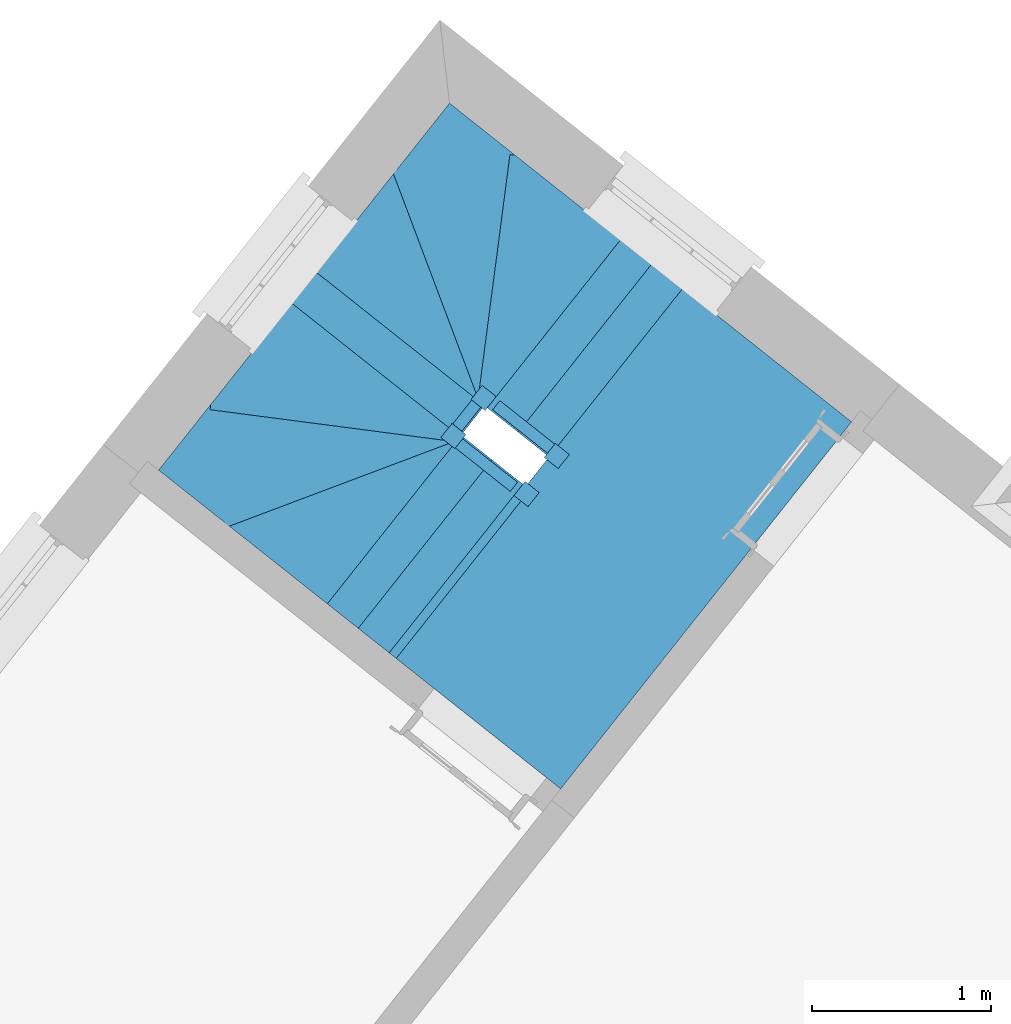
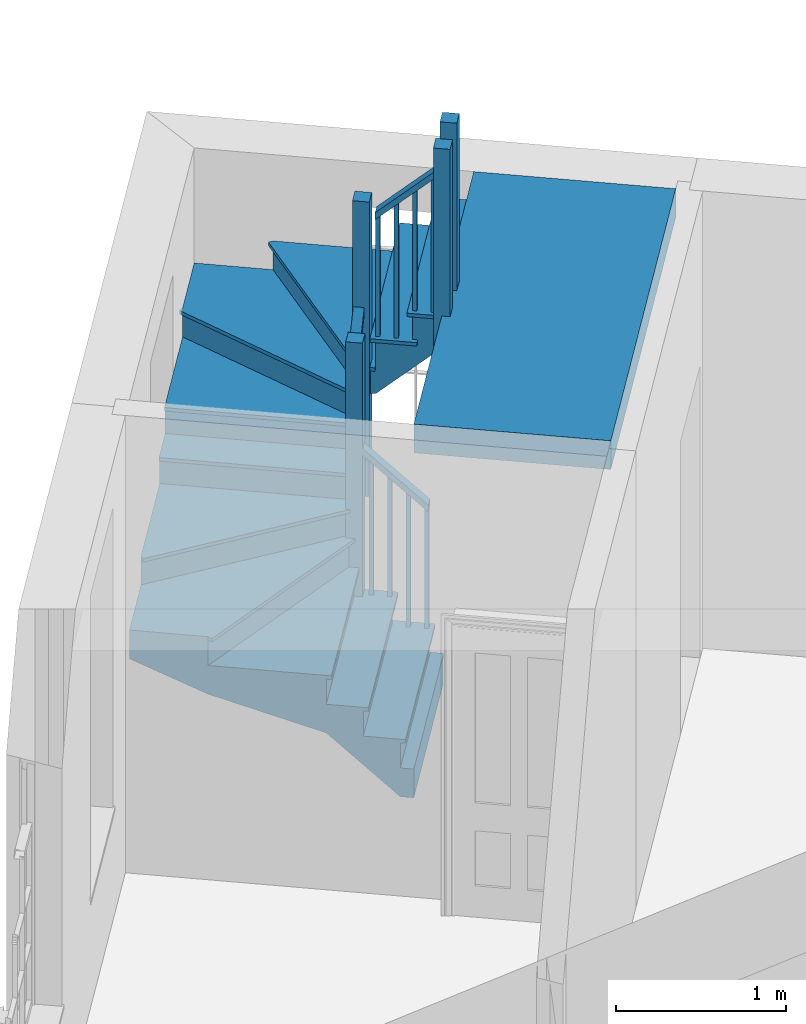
# One storey, part 6 of 6: 1 stair.
"""IFC4 building model written with IfcOpenShell, lengths in metres."""

from ifc_helpers import new_model, si_unit, frame, origin, origin_with_axes, place, context, subcontext, project, spatial, faceted_brep, element, save


model = new_model("IFC4")

# Units and contexts
model_context = context("Model", 3, world=origin_with_axes())
body_context = subcontext(model_context, "Body", "Model", "MODEL_VIEW")
ifc_project = project(units=[si_unit("PLANEANGLEUNIT", "RADIAN"), si_unit("MASSUNIT", "GRAM", prefix="KILO"), si_unit("FORCEUNIT", "NEWTON", prefix="KILO"), si_unit("LENGTHUNIT", "METRE"), si_unit("AREAUNIT", "SQUARE_METRE"), si_unit("VOLUMEUNIT", "CUBIC_METRE")], contexts=[model_context, model_context])

# Sites, building, storey
site_1_placement = place(None, origin_with_axes())
site_1 = spatial("IfcSite", under=ifc_project, at=site_1_placement, Name="Tamar")
site_2_placement = place(site_1_placement, origin_with_axes())
site_2 = spatial("IfcSite", under=site_1, at=site_2_placement, Name="Site plot-5", CompositionType="ELEMENT")
building_placement = place(None, origin_with_axes())
building = spatial("IfcBuilding", under=site_2, at=building_placement, Name="Building plot-5", CompositionType="ELEMENT")
storey_placement = place(None, frame((0.0, 0.0, 26.85), z_axis=(0.0, 0.0, 1.0), x_axis=(1.0, 0.0, 0.0)))
storey = spatial("IfcBuildingStorey", under=building, at=storey_placement, Name="plot-5 1", CompositionType="ELEMENT", Elevation=26.85)

# Stair
stair_placement = place(None, origin())
element("IfcStair", 1, at=stair_placement, inside=storey, Name="Stair", PredefinedType="NOTDEFINED", context=body_context, shape_type="Brep", body=[
    faceted_brep([(230.127307, 275.473376, 29.94375), (230.854102, 276.390256, 29.94375), (230.681697, 276.526919, 29.94375), (229.954902, 275.610039, 29.94375), (229.954902, 275.610039, 29.53125), (230.681697, 276.526919, 29.53125), (230.854102, 276.390256, 29.7375), (230.127307, 275.473376, 29.7375)], [[[0, 1, 2, 3]], [[4, 5, 6, 7]], [[7, 6, 1, 0]], [[1, 6, 5, 2]], [[5, 4, 3, 2]], [[3, 4, 7, 0]]]),
    faceted_brep([(230.658187, 276.545555, 29.91875), (230.658187, 276.545555, 29.94375), (230.681697, 276.526919, 29.91875), (230.877612, 276.371621, 29.94375), (230.877612, 276.371621, 29.91875), (230.854102, 276.390256, 29.91875), (230.681697, 276.526919, 29.94375), (230.854102, 276.390256, 29.94375), (229.912757, 275.605165, 29.94375), (229.954902, 275.610039, 29.94375), (229.954902, 275.610039, 29.91875), (229.912757, 275.605165, 29.91875), (230.132181, 275.431231, 29.94375), (230.127307, 275.473376, 29.94375), (230.127307, 275.473376, 29.91875), (230.132181, 275.431231, 29.91875)], [[[0, 1, 2]], [[3, 4, 5]], [[2, 1, 6]], [[3, 5, 7]], [[6, 1, 8, 9]], [[2, 6, 9, 10]], [[0, 2, 10, 11]], [[1, 0, 11, 8]], [[9, 8, 12, 13]], [[10, 9, 13, 14]], [[11, 10, 14, 15]], [[8, 11, 15, 12]], [[13, 12, 3, 7]], [[14, 13, 7, 5]], [[15, 14, 5, 4]], [[12, 15, 4, 3]]]),
    faceted_brep([(229.954902, 275.610039, 30.84375), (229.974494, 275.594509, 30.84375), (229.990023, 275.6141, 30.84375), (229.970432, 275.62963, 30.84375), (229.970432, 275.62963, 29.94375), (229.990023, 275.6141, 29.94375), (229.974494, 275.594509, 29.94375), (229.954902, 275.610039, 29.94375)], [[[0, 1, 2, 3]], [[4, 5, 6, 7]], [[7, 6, 1, 0]], [[6, 5, 2, 1]], [[5, 4, 3, 2]], [[4, 7, 0, 3]]]),
    faceted_brep([(230.041105, 275.541708, 30.946875), (230.060696, 275.526178, 30.946875), (230.076226, 275.545769, 30.946875), (230.056634, 275.561299, 30.946875), (230.056634, 275.561299, 29.94375), (230.076226, 275.545769, 29.94375), (230.060696, 275.526178, 29.94375), (230.041105, 275.541708, 29.94375)], [[[0, 1, 2, 3]], [[4, 5, 6, 7]], [[7, 6, 1, 0]], [[6, 5, 2, 1]], [[5, 4, 3, 2]], [[4, 7, 0, 3]]]),
    faceted_brep([(229.982856, 275.645303, 30.79375), (229.942478, 275.594366, 30.79375), (229.942478, 275.594366, 30.84375), (229.982856, 275.645303, 30.84375), (230.114883, 275.457703, 31.0), (230.155261, 275.508641, 31.0), (230.155261, 275.508641, 31.05), (230.114883, 275.457703, 31.05)], [[[0, 1, 2, 3]], [[4, 5, 6, 7]], [[0, 5, 4, 1]], [[3, 2, 7, 6]], [[0, 3, 6, 5]], [[2, 1, 4, 7]]]),
    faceted_brep([(229.954902, 275.610039, 29.7375), (230.681697, 276.526919, 29.7375), (230.509292, 276.663581, 29.7375), (229.782497, 275.746701, 29.7375), (229.782497, 275.746701, 29.325), (230.509292, 276.663581, 29.325), (230.681697, 276.526919, 29.53125), (229.954902, 275.610039, 29.53125)], [[[0, 1, 2, 3]], [[4, 5, 6, 7]], [[7, 6, 1, 0]], [[1, 6, 5, 2]], [[5, 4, 3, 2]], [[3, 4, 7, 0]]]),
    faceted_brep([(230.509292, 276.663581, 29.7125), (230.485783, 276.682217, 29.7125), (230.509292, 276.663581, 29.7375), (230.705207, 276.508283, 29.7125), (230.681697, 276.526919, 29.7125), (230.681697, 276.526919, 29.7375), (230.485783, 276.682217, 29.7375), (230.705207, 276.508283, 29.7375), (229.740352, 275.741827, 29.7375), (229.782497, 275.746701, 29.7375), (229.782497, 275.746701, 29.7125), (229.740352, 275.741827, 29.7125), (229.959776, 275.567893, 29.7375), (229.954902, 275.610039, 29.7375), (229.954902, 275.610039, 29.7125), (229.959776, 275.567893, 29.7125)], [[[0, 1, 2]], [[3, 4, 5]], [[1, 6, 2]], [[7, 3, 5]], [[2, 6, 8, 9]], [[0, 2, 9, 10]], [[1, 0, 10, 11]], [[6, 1, 11, 8]], [[9, 8, 12, 13]], [[10, 9, 13, 14]], [[11, 10, 14, 15]], [[8, 11, 15, 12]], [[13, 12, 7, 5]], [[14, 13, 5, 4]], [[15, 14, 4, 3]], [[12, 15, 3, 7]]]),
    faceted_brep([(229.782497, 275.746701, 30.6375), (229.802089, 275.731171, 30.6375), (229.817619, 275.750763, 30.6375), (229.798027, 275.766293, 30.6375), (229.798027, 275.766293, 29.7375), (229.817619, 275.750763, 29.7375), (229.802089, 275.731171, 29.7375), (229.782497, 275.746701, 29.7375)], [[[0, 1, 2, 3]], [[4, 5, 6, 7]], [[7, 6, 1, 0]], [[6, 5, 2, 1]], [[5, 4, 3, 2]], [[4, 7, 0, 3]]]),
    faceted_brep([(229.8687, 275.67837, 30.740625), (229.888291, 275.66284, 30.740625), (229.903821, 275.682432, 30.740625), (229.88423, 275.697961, 30.740625), (229.88423, 275.697961, 29.7375), (229.903821, 275.682432, 29.7375), (229.888291, 275.66284, 29.7375), (229.8687, 275.67837, 29.7375)], [[[0, 1, 2, 3]], [[4, 5, 6, 7]], [[7, 6, 1, 0]], [[6, 5, 2, 1]], [[5, 4, 3, 2]], [[4, 7, 0, 3]]]),
    faceted_brep([(229.810451, 275.781966, 30.5875), (229.770074, 275.731028, 30.5875), (229.770074, 275.731028, 30.6375), (229.810451, 275.781966, 30.6375), (229.942478, 275.594366, 30.79375), (229.982856, 275.645303, 30.79375), (229.982856, 275.645303, 30.84375), (229.942478, 275.594366, 30.84375)], [[[0, 1, 2, 3]], [[4, 5, 6, 7]], [[0, 5, 4, 1]], [[3, 2, 7, 6]], [[0, 3, 6, 5]], [[2, 1, 4, 7]]]),
    faceted_brep([(229.782497, 275.746701, 29.53125), (230.509292, 276.663581, 29.53125), (230.446352, 276.713473, 29.53125), (229.719557, 275.796593, 29.53125), (229.719557, 275.796593, 29.325), (230.446352, 276.713473, 29.325), (230.509292, 276.663581, 29.325), (229.782497, 275.746701, 29.325)], [[[0, 1, 2, 3]], [[4, 5, 6, 7]], [[7, 6, 1, 0]], [[6, 5, 2, 1]], [[5, 4, 3, 2]], [[4, 7, 0, 3]]]),
    faceted_brep([(229.700921, 275.773083, 29.50625), (229.700921, 275.773083, 29.53125), (229.719557, 275.796593, 29.50625), (229.763862, 275.723191, 29.53125), (229.763862, 275.723191, 29.50625), (229.782497, 275.746701, 29.50625), (229.719557, 275.796593, 29.53125), (229.782497, 275.746701, 29.53125)], [[[0, 1, 2]], [[3, 4, 5]], [[2, 1, 6]], [[3, 5, 7]], [[6, 1, 3, 7]], [[2, 6, 7, 5]], [[0, 2, 5, 4]], [[1, 0, 4, 3]]]),
    faceted_brep([(229.649314, 275.78847, 30.73125), (229.72768, 275.726351, 30.73125), (229.789799, 275.804716, 30.73125), (229.711433, 275.866836, 30.73125), (229.711433, 275.866836, 29.53125), (229.789799, 275.804716, 29.53125), (229.72768, 275.726351, 29.53125), (229.649314, 275.78847, 29.53125)], [[[0, 1, 2, 3]], [[4, 5, 6, 7]], [[7, 6, 1, 0]], [[6, 5, 2, 1]], [[5, 4, 3, 2]], [[4, 7, 0, 3]]]),
    faceted_brep([(230.446352, 276.713473, 29.53125), (229.896224, 277.14955, 29.53125), (229.719557, 275.796593, 29.53125), (229.719557, 275.796593, 29.11875), (229.896224, 277.14955, 29.11875), (230.446352, 276.713473, 29.325)], [[[0, 1, 2]], [[3, 4, 5]], [[0, 5, 4, 1]], [[4, 3, 2, 1]], [[2, 3, 5, 0]]]),
    faceted_brep([(229.866476, 277.153435, 29.50625), (229.866476, 277.153435, 29.53125), (229.896224, 277.14955, 29.50625), (229.689809, 275.800478, 29.53125), (229.689809, 275.800478, 29.50625), (229.719557, 275.796593, 29.50625), (229.896224, 277.14955, 29.53125), (229.719557, 275.796593, 29.53125)], [[[0, 1, 2]], [[3, 4, 5]], [[2, 1, 6]], [[3, 5, 7]], [[6, 1, 3, 7]], [[2, 6, 7, 5]], [[0, 2, 5, 4]], [[1, 0, 4, 3]]]),
    faceted_brep([(229.896224, 277.14955, 29.325), (229.529472, 277.440268, 29.325), (229.238754, 277.073516, 29.325), (229.719557, 275.796593, 29.325), (229.719557, 275.796593, 28.9125), (229.238754, 277.073516, 28.9125), (229.529472, 277.440268, 29.11875), (229.896224, 277.14955, 29.11875)], [[[0, 1, 2, 3]], [[4, 5, 6, 7]], [[7, 6, 1, 0]], [[1, 6, 5, 2]], [[5, 4, 3, 2]], [[3, 4, 7, 0]]]),
    faceted_brep([(229.210678, 277.062945, 29.3), (229.210678, 277.062945, 29.325), (229.238754, 277.073516, 29.3), (229.691481, 275.786022, 29.325), (229.691481, 275.786022, 29.3), (229.719557, 275.796593, 29.3), (229.238754, 277.073516, 29.325), (229.719557, 275.796593, 29.325)], [[[0, 1, 2]], [[3, 4, 5]], [[2, 1, 6]], [[3, 5, 7]], [[6, 1, 3, 7]], [[2, 6, 7, 5]], [[0, 2, 5, 4]], [[1, 0, 4, 3]]]),
    faceted_brep([(229.238754, 277.073516, 29.11875), (228.802677, 276.523388, 29.11875), (229.719557, 275.796593, 29.11875), (229.719557, 275.796593, 28.70625), (228.802677, 276.523388, 28.70625), (229.238754, 277.073516, 28.9125)], [[[0, 1, 2]], [[3, 4, 5]], [[0, 5, 4, 1]], [[4, 3, 2, 1]], [[2, 3, 5, 0]]]),
    faceted_brep([(228.784041, 276.499879, 29.09375), (228.784041, 276.499879, 29.11875), (228.802677, 276.523388, 29.09375), (229.700921, 275.773083, 29.11875), (229.700921, 275.773083, 29.09375), (229.719557, 275.796593, 29.09375), (228.802677, 276.523388, 29.11875), (229.719557, 275.796593, 29.11875)], [[[0, 1, 2]], [[3, 4, 5]], [[2, 1, 6]], [[3, 5, 7]], [[6, 1, 3, 7]], [[2, 6, 7, 5]], [[0, 2, 5, 4]], [[1, 0, 4, 3]]]),
    faceted_brep([(229.649314, 275.78847, 29.53125), (229.72768, 275.726351, 29.53125), (229.789799, 275.804716, 29.53125), (229.711433, 275.866836, 29.53125), (229.711433, 275.866836, 28.61875), (229.789799, 275.804716, 28.61875), (229.72768, 275.726351, 28.61875), (229.649314, 275.78847, 28.61875)], [[[0, 1, 2, 3]], [[4, 5, 6, 7]], [[7, 6, 1, 0]], [[6, 5, 2, 1]], [[5, 4, 3, 2]], [[4, 7, 0, 3]]]),
    faceted_brep([(229.719557, 275.796593, 28.9125), (228.802677, 276.523388, 28.9125), (228.666014, 276.350983, 28.9125), (229.582894, 275.624188, 28.9125), (229.582894, 275.624188, 28.5), (228.666014, 276.350983, 28.5), (228.802677, 276.523388, 28.70625), (229.719557, 275.796593, 28.70625)], [[[0, 1, 2, 3]], [[4, 5, 6, 7]], [[7, 6, 1, 0]], [[1, 6, 5, 2]], [[5, 4, 3, 2]], [[3, 4, 7, 0]]]),
    faceted_brep([(228.666014, 276.350983, 28.8875), (228.647379, 276.327474, 28.8875), (228.666014, 276.350983, 28.9125), (228.821312, 276.546898, 28.8875), (228.802677, 276.523388, 28.8875), (228.802677, 276.523388, 28.9125), (228.647379, 276.327474, 28.9125), (228.821312, 276.546898, 28.9125), (229.587768, 275.582043, 28.9125), (229.582894, 275.624188, 28.9125), (229.582894, 275.624188, 28.8875), (229.587768, 275.582043, 28.8875), (229.761702, 275.801467, 28.9125), (229.719557, 275.796593, 28.9125), (229.719557, 275.796593, 28.8875), (229.761702, 275.801467, 28.8875)], [[[0, 1, 2]], [[3, 4, 5]], [[1, 6, 2]], [[7, 3, 5]], [[2, 6, 8, 9]], [[0, 2, 9, 10]], [[1, 0, 10, 11]], [[6, 1, 11, 8]], [[9, 8, 12, 13]], [[10, 9, 13, 14]], [[11, 10, 14, 15]], [[8, 11, 15, 12]], [[13, 12, 7, 5]], [[14, 13, 5, 4]], [[15, 14, 4, 3]], [[12, 15, 3, 7]]]),
    faceted_brep([(229.582894, 275.624188, 29.8125), (229.598424, 275.64378, 29.8125), (229.578833, 275.65931, 29.8125), (229.563303, 275.639718, 29.8125), (229.563303, 275.639718, 28.9125), (229.578833, 275.65931, 28.9125), (229.598424, 275.64378, 28.9125), (229.582894, 275.624188, 28.9125)], [[[0, 1, 2, 3]], [[4, 5, 6, 7]], [[7, 6, 1, 0]], [[6, 5, 2, 1]], [[5, 4, 3, 2]], [[4, 7, 0, 3]]]),
    faceted_brep([(229.651225, 275.710391, 29.915625), (229.666755, 275.729982, 29.915625), (229.647164, 275.745512, 29.915625), (229.631634, 275.725921, 29.915625), (229.631634, 275.725921, 28.9125), (229.647164, 275.745512, 28.9125), (229.666755, 275.729982, 28.9125), (229.651225, 275.710391, 28.9125)], [[[0, 1, 2, 3]], [[4, 5, 6, 7]], [[7, 6, 1, 0]], [[6, 5, 2, 1]], [[5, 4, 3, 2]], [[4, 7, 0, 3]]]),
    faceted_brep([(229.54763, 275.652142, 29.7625), (229.598567, 275.611765, 29.7625), (229.598567, 275.611765, 29.8125), (229.54763, 275.652142, 29.8125), (229.73523, 275.784169, 29.96875), (229.684292, 275.824547, 29.96875), (229.684292, 275.824547, 30.01875), (229.73523, 275.784169, 30.01875)], [[[0, 1, 2, 3]], [[4, 5, 6, 7]], [[0, 5, 4, 1]], [[3, 2, 7, 6]], [[0, 3, 6, 5]], [[2, 1, 4, 7]]]),
    faceted_brep([(229.582894, 275.624188, 28.70625), (228.666014, 276.350983, 28.70625), (228.634527, 276.311262, 28.70625), (229.551407, 275.584467, 28.70625), (229.551407, 275.584467, 28.5), (228.634527, 276.311262, 28.5), (228.666014, 276.350983, 28.5), (229.582894, 275.624188, 28.5)], [[[0, 1, 2, 3]], [[4, 5, 6, 7]], [[7, 6, 1, 0]], [[6, 5, 2, 1]], [[5, 4, 3, 2]], [[4, 7, 0, 3]]]),
    faceted_brep([(229.551407, 275.584467, 28.68125), (229.574917, 275.565831, 28.68125), (229.551407, 275.584467, 28.70625), (229.606404, 275.605553, 28.68125), (229.582894, 275.624188, 28.68125), (229.582894, 275.624188, 28.70625), (229.574917, 275.565831, 28.70625), (229.606404, 275.605553, 28.70625)], [[[0, 1, 2]], [[3, 4, 5]], [[1, 6, 2]], [[7, 3, 5]], [[2, 6, 7, 5]], [[0, 2, 5, 4]], [[1, 0, 4, 3]], [[6, 1, 3, 7]]]),
    faceted_brep([(229.559531, 275.514224, 29.90625), (229.62165, 275.59259, 29.90625), (229.543284, 275.654709, 29.90625), (229.481165, 275.576343, 29.90625), (229.481165, 275.576343, 28.70625), (229.543284, 275.654709, 28.70625), (229.62165, 275.59259, 28.70625), (229.559531, 275.514224, 28.70625)], [[[0, 1, 2, 3]], [[4, 5, 6, 7]], [[7, 6, 1, 0]], [[6, 5, 2, 1]], [[5, 4, 3, 2]], [[4, 7, 0, 3]]]),
    faceted_brep([(228.634527, 276.311262, 28.70625), (228.19845, 275.761134, 28.70625), (229.551407, 275.584467, 28.70625), (229.551407, 275.584467, 28.29375), (228.19845, 275.761134, 28.29375), (228.634527, 276.311262, 28.5)], [[[0, 1, 2]], [[3, 4, 5]], [[0, 5, 4, 1]], [[4, 3, 2, 1]], [[2, 3, 5, 0]]]),
    faceted_brep([(228.19845, 275.761134, 28.68125), (228.194566, 275.731386, 28.68125), (228.19845, 275.761134, 28.70625), (229.547523, 275.554719, 28.68125), (229.551407, 275.584467, 28.68125), (229.551407, 275.584467, 28.70625), (228.194566, 275.731386, 28.70625), (229.547523, 275.554719, 28.70625)], [[[0, 1, 2]], [[3, 4, 5]], [[1, 6, 2]], [[7, 3, 5]], [[2, 6, 7, 5]], [[0, 2, 5, 4]], [[1, 0, 4, 3]], [[6, 1, 3, 7]]]),
    faceted_brep([(228.19845, 275.761134, 28.5), (227.907732, 275.394382, 28.5), (228.274484, 275.103664, 28.5), (229.551407, 275.584467, 28.5), (229.551407, 275.584467, 28.0875), (228.274484, 275.103664, 28.0875), (227.907732, 275.394382, 28.29375), (228.19845, 275.761134, 28.29375)], [[[0, 1, 2, 3]], [[4, 5, 6, 7]], [[7, 6, 1, 0]], [[1, 6, 5, 2]], [[5, 4, 3, 2]], [[3, 4, 7, 0]]]),
    faceted_brep([(228.285056, 275.075588, 28.475), (228.285056, 275.075588, 28.5), (228.274484, 275.103664, 28.475), (229.561979, 275.556391, 28.5), (229.561979, 275.556391, 28.475), (229.551407, 275.584467, 28.475), (228.274484, 275.103664, 28.5), (229.551407, 275.584467, 28.5)], [[[0, 1, 2]], [[3, 4, 5]], [[2, 1, 6]], [[3, 5, 7]], [[6, 1, 3, 7]], [[2, 6, 7, 5]], [[0, 2, 5, 4]], [[1, 0, 4, 3]]]),
    faceted_brep([(228.274484, 275.103664, 28.29375), (228.824612, 274.667587, 28.29375), (229.551407, 275.584467, 28.29375), (229.551407, 275.584467, 27.88125), (228.824612, 274.667587, 27.88125), (228.274484, 275.103664, 28.0875)], [[[0, 1, 2]], [[3, 4, 5]], [[0, 5, 4, 1]], [[4, 3, 2, 1]], [[2, 3, 5, 0]]]),
    faceted_brep([(228.824612, 274.667587, 28.26875), (228.848122, 274.648951, 28.26875), (228.824612, 274.667587, 28.29375), (229.574917, 275.565831, 28.26875), (229.551407, 275.584467, 28.26875), (229.551407, 275.584467, 28.29375), (228.848122, 274.648951, 28.29375), (229.574917, 275.565831, 28.29375)], [[[0, 1, 2]], [[3, 4, 5]], [[1, 6, 2]], [[7, 3, 5]], [[2, 6, 7, 5]], [[0, 2, 5, 4]], [[1, 0, 4, 3]], [[6, 1, 3, 7]]]),
    faceted_brep([(229.559531, 275.514224, 28.70625), (229.62165, 275.59259, 28.70625), (229.543284, 275.654709, 28.70625), (229.481165, 275.576343, 28.70625), (229.481165, 275.576343, 27.79375), (229.543284, 275.654709, 27.79375), (229.62165, 275.59259, 27.79375), (229.559531, 275.514224, 27.79375)], [[[0, 1, 2, 3]], [[4, 5, 6, 7]], [[7, 6, 1, 0]], [[6, 5, 2, 1]], [[5, 4, 3, 2]], [[4, 7, 0, 3]]]),
    faceted_brep([(229.551407, 275.584467, 28.0875), (228.824612, 274.667587, 28.0875), (228.997017, 274.530924, 28.0875), (229.723812, 275.447804, 28.0875), (229.723812, 275.447804, 27.675), (228.997017, 274.530924, 27.675), (228.824612, 274.667587, 27.88125), (229.551407, 275.584467, 27.88125)], [[[0, 1, 2, 3]], [[4, 5, 6, 7]], [[7, 6, 1, 0]], [[1, 6, 5, 2]], [[5, 4, 3, 2]], [[3, 4, 7, 0]]]),
    faceted_brep([(229.020527, 274.512288, 28.0625), (229.020527, 274.512288, 28.0875), (228.997017, 274.530924, 28.0625), (228.801103, 274.686222, 28.0875), (228.801103, 274.686222, 28.0625), (228.824612, 274.667587, 28.0625), (228.997017, 274.530924, 28.0875), (228.824612, 274.667587, 28.0875), (229.765958, 275.452678, 28.0875), (229.723812, 275.447804, 28.0875), (229.723812, 275.447804, 28.0625), (229.765958, 275.452678, 28.0625), (229.546533, 275.626612, 28.0875), (229.551407, 275.584467, 28.0875), (229.551407, 275.584467, 28.0625), (229.546533, 275.626612, 28.0625)], [[[0, 1, 2]], [[3, 4, 5]], [[2, 1, 6]], [[3, 5, 7]], [[6, 1, 8, 9]], [[2, 6, 9, 10]], [[0, 2, 10, 11]], [[1, 0, 11, 8]], [[9, 8, 12, 13]], [[10, 9, 13, 14]], [[11, 10, 14, 15]], [[8, 11, 15, 12]], [[13, 12, 3, 7]], [[14, 13, 7, 5]], [[15, 14, 5, 4]], [[12, 15, 4, 3]]]),
    faceted_brep([(229.723812, 275.447804, 28.9875), (229.704221, 275.463334, 28.9875), (229.688691, 275.443743, 28.9875), (229.708282, 275.428213, 28.9875), (229.708282, 275.428213, 28.0875), (229.688691, 275.443743, 28.0875), (229.704221, 275.463334, 28.0875), (229.723812, 275.447804, 28.0875)], [[[0, 1, 2, 3]], [[4, 5, 6, 7]], [[7, 6, 1, 0]], [[6, 5, 2, 1]], [[5, 4, 3, 2]], [[4, 7, 0, 3]]]),
    faceted_brep([(229.63761, 275.516135, 29.090625), (229.618018, 275.531665, 29.090625), (229.602489, 275.512074, 29.090625), (229.62208, 275.496544, 29.090625), (229.62208, 275.496544, 28.0875), (229.602489, 275.512074, 28.0875), (229.618018, 275.531665, 28.0875), (229.63761, 275.516135, 28.0875)], [[[0, 1, 2, 3]], [[4, 5, 6, 7]], [[7, 6, 1, 0]], [[6, 5, 2, 1]], [[5, 4, 3, 2]], [[4, 7, 0, 3]]]),
    faceted_brep([(229.695859, 275.41254, 28.9375), (229.736236, 275.463477, 28.9375), (229.736236, 275.463477, 28.9875), (229.695859, 275.41254, 28.9875), (229.563831, 275.60014, 29.14375), (229.523454, 275.549202, 29.14375), (229.523454, 275.549202, 29.19375), (229.563831, 275.60014, 29.19375)], [[[0, 1, 2, 3]], [[4, 5, 6, 7]], [[0, 5, 4, 1]], [[3, 2, 7, 6]], [[0, 3, 6, 5]], [[2, 1, 4, 7]]]),
    faceted_brep([(229.723812, 275.447804, 27.88125), (228.997017, 274.530924, 27.88125), (229.169422, 274.394262, 27.88125), (229.896217, 275.311142, 27.88125), (229.896217, 275.311142, 27.46875), (229.169422, 274.394262, 27.46875), (228.997017, 274.530924, 27.675), (229.723812, 275.447804, 27.675)], [[[0, 1, 2, 3]], [[4, 5, 6, 7]], [[7, 6, 1, 0]], [[1, 6, 5, 2]], [[5, 4, 3, 2]], [[3, 4, 7, 0]]]),
    faceted_brep([(229.192932, 274.375626, 27.85625), (229.192932, 274.375626, 27.88125), (229.169422, 274.394262, 27.85625), (228.973507, 274.54956, 27.88125), (228.973507, 274.54956, 27.85625), (228.997017, 274.530924, 27.85625), (229.169422, 274.394262, 27.88125), (228.997017, 274.530924, 27.88125), (229.938363, 275.316016, 27.88125), (229.896217, 275.311142, 27.88125), (229.896217, 275.311142, 27.85625), (229.938363, 275.316016, 27.85625), (229.718938, 275.48995, 27.88125), (229.723812, 275.447804, 27.88125), (229.723812, 275.447804, 27.85625), (229.718938, 275.48995, 27.85625)], [[[0, 1, 2]], [[3, 4, 5]], [[2, 1, 6]], [[3, 5, 7]], [[6, 1, 8, 9]], [[2, 6, 9, 10]], [[0, 2, 10, 11]], [[1, 0, 11, 8]], [[9, 8, 12, 13]], [[10, 9, 13, 14]], [[11, 10, 14, 15]], [[8, 11, 15, 12]], [[13, 12, 3, 7]], [[14, 13, 7, 5]], [[15, 14, 5, 4]], [[12, 15, 4, 3]]]),
    faceted_brep([(229.896217, 275.311142, 28.78125), (229.876626, 275.326672, 28.78125), (229.861096, 275.30708, 28.78125), (229.880687, 275.29155, 28.78125), (229.880687, 275.29155, 27.88125), (229.861096, 275.30708, 27.88125), (229.876626, 275.326672, 27.88125), (229.896217, 275.311142, 27.88125)], [[[0, 1, 2, 3]], [[4, 5, 6, 7]], [[7, 6, 1, 0]], [[6, 5, 2, 1]], [[5, 4, 3, 2]], [[4, 7, 0, 3]]]),
    faceted_brep([(229.810015, 275.379473, 28.884375), (229.790423, 275.395003, 28.884375), (229.774893, 275.375411, 28.884375), (229.794485, 275.359882, 28.884375), (229.794485, 275.359882, 27.88125), (229.774893, 275.375411, 27.88125), (229.790423, 275.395003, 27.88125), (229.810015, 275.379473, 27.88125)], [[[0, 1, 2, 3]], [[4, 5, 6, 7]], [[7, 6, 1, 0]], [[6, 5, 2, 1]], [[5, 4, 3, 2]], [[4, 7, 0, 3]]]),
    faceted_brep([(229.868263, 275.275877, 28.73125), (229.908641, 275.326815, 28.73125), (229.908641, 275.326815, 28.78125), (229.868263, 275.275877, 28.78125), (229.736236, 275.463477, 28.9375), (229.695859, 275.41254, 28.9375), (229.695859, 275.41254, 28.9875), (229.736236, 275.463477, 28.9875)], [[[0, 1, 2, 3]], [[4, 5, 6, 7]], [[0, 5, 4, 1]], [[3, 2, 7, 6]], [[0, 3, 6, 5]], [[2, 1, 4, 7]]]),
    faceted_brep([(229.896217, 275.311142, 27.675), (229.169422, 274.394262, 27.675), (229.232363, 274.34437, 27.675), (229.959158, 275.26125, 27.675), (229.959158, 275.26125, 27.46875), (229.232363, 274.34437, 27.46875), (229.169422, 274.394262, 27.46875), (229.896217, 275.311142, 27.46875)], [[[0, 1, 2, 3]], [[4, 5, 6, 7]], [[7, 6, 1, 0]], [[6, 5, 2, 1]], [[5, 4, 3, 2]], [[4, 7, 0, 3]]]),
    faceted_brep([(229.977794, 275.28476, 27.65), (229.977794, 275.28476, 27.675), (229.959158, 275.26125, 27.65), (229.914853, 275.334652, 27.675), (229.914853, 275.334652, 27.65), (229.896217, 275.311142, 27.65), (229.959158, 275.26125, 27.675), (229.896217, 275.311142, 27.675)], [[[0, 1, 2]], [[3, 4, 5]], [[2, 1, 6]], [[3, 5, 7]], [[6, 1, 3, 7]], [[2, 6, 7, 5]], [[0, 2, 5, 4]], [[1, 0, 4, 3]]]),
    faceted_brep([(230.0294, 275.269373, 31.35), (229.951034, 275.331492, 31.35), (229.888915, 275.253127, 31.35), (229.967281, 275.191007, 31.35), (229.967281, 275.191007, 30.15), (229.888915, 275.253127, 30.15), (229.951034, 275.331492, 30.15), (230.0294, 275.269373, 30.15)], [[[0, 1, 2, 3]], [[4, 5, 6, 7]], [[7, 6, 1, 0]], [[6, 5, 2, 1]], [[5, 4, 3, 2]], [[4, 7, 0, 3]]]),
    faceted_brep([(229.959158, 275.26125, 30.15), (229.232363, 274.34437, 30.15), (230.149243, 273.617575, 30.15), (230.876038, 274.534455, 30.15), (230.876038, 274.534455, 29.94375), (230.149243, 273.617575, 29.94375), (229.232363, 274.34437, 29.94375), (229.959158, 275.26125, 29.94375)], [[[0, 1, 2, 3]], [[4, 5, 6, 7]], [[7, 6, 1, 0]], [[6, 5, 2, 1]], [[5, 4, 3, 2]], [[4, 7, 0, 3]]]),
    faceted_brep([(230.894674, 274.557964, 30.125), (230.894674, 274.557964, 30.15), (230.876038, 274.534455, 30.125), (229.977794, 275.28476, 30.15), (229.977794, 275.28476, 30.125), (229.959158, 275.26125, 30.125), (230.876038, 274.534455, 30.15), (229.959158, 275.26125, 30.15)], [[[0, 1, 2]], [[3, 4, 5]], [[2, 1, 6]], [[3, 5, 7]], [[6, 1, 3, 7]], [[2, 6, 7, 5]], [[0, 2, 5, 4]], [[1, 0, 4, 3]]]),
    faceted_brep([(230.0294, 275.269373, 30.15), (229.951034, 275.331492, 30.15), (229.888915, 275.253127, 30.15), (229.967281, 275.191007, 30.15), (229.967281, 275.191007, 29.65), (229.888915, 275.253127, 29.65), (229.951034, 275.331492, 29.65), (230.0294, 275.269373, 29.65)], [[[0, 1, 2, 3]], [[4, 5, 6, 7]], [[7, 6, 1, 0]], [[6, 5, 2, 1]], [[5, 4, 3, 2]], [[4, 7, 0, 3]]]),
    faceted_brep([(229.959158, 275.26125, 30.15), (230.876038, 274.534455, 30.15), (231.044187, 274.746581, 30.15), (230.127307, 275.473376, 30.15), (230.127307, 275.473376, 29.94375), (231.044187, 274.746581, 29.94375), (230.876038, 274.534455, 29.94375), (229.959158, 275.26125, 29.94375)], [[[0, 1, 2, 3]], [[4, 5, 6, 7]], [[7, 6, 1, 0]], [[6, 5, 2, 1]], [[5, 4, 3, 2]], [[4, 7, 0, 3]]]),
    faceted_brep([(230.103797, 275.492012, 30.125), (230.103797, 275.492012, 30.15), (230.127307, 275.473376, 30.125), (229.935648, 275.279886, 30.15), (229.935648, 275.279886, 30.125), (229.959158, 275.26125, 30.125), (230.127307, 275.473376, 30.15), (229.959158, 275.26125, 30.15)], [[[0, 1, 2]], [[3, 4, 5]], [[2, 1, 6]], [[3, 5, 7]], [[6, 1, 3, 7]], [[2, 6, 7, 5]], [[0, 2, 5, 4]], [[1, 0, 4, 3]]]),
    faceted_brep([(230.119184, 275.543619, 31.35), (230.057064, 275.465253, 31.35), (230.13543, 275.403134, 31.35), (230.197549, 275.4815, 31.35), (230.197549, 275.4815, 30.15), (230.13543, 275.403134, 30.15), (230.057064, 275.465253, 30.15), (230.119184, 275.543619, 30.15)], [[[0, 1, 2, 3]], [[4, 5, 6, 7]], [[7, 6, 1, 0]], [[6, 5, 2, 1]], [[5, 4, 3, 2]], [[4, 7, 0, 3]]]),
    faceted_brep([(230.127307, 275.473376, 30.15), (231.044187, 274.746581, 30.15), (231.770982, 275.663461, 30.15), (230.854102, 276.390256, 30.15), (230.854102, 276.390256, 29.94375), (231.770982, 275.663461, 29.94375), (231.044187, 274.746581, 29.94375), (230.127307, 275.473376, 29.94375)], [[[0, 1, 2, 3]], [[4, 5, 6, 7]], [[7, 6, 1, 0]], [[6, 5, 2, 1]], [[5, 4, 3, 2]], [[4, 7, 0, 3]]]),
    faceted_brep([(230.830592, 276.408892, 30.125), (230.830592, 276.408892, 30.15), (230.854102, 276.390256, 30.125), (230.103797, 275.492012, 30.15), (230.103797, 275.492012, 30.125), (230.127307, 275.473376, 30.125), (230.854102, 276.390256, 30.15), (230.127307, 275.473376, 30.15)], [[[0, 1, 2]], [[3, 4, 5]], [[2, 1, 6]], [[3, 5, 7]], [[6, 1, 3, 7]], [[2, 6, 7, 5]], [[0, 2, 5, 4]], [[1, 0, 4, 3]]]),
    faceted_brep([(230.119184, 275.543619, 30.15), (230.057064, 275.465253, 30.15), (230.13543, 275.403134, 30.15), (230.197549, 275.4815, 30.15), (230.197549, 275.4815, 29.65), (230.13543, 275.403134, 29.65), (230.057064, 275.465253, 29.65), (230.119184, 275.543619, 29.65)], [[[0, 1, 2, 3]], [[4, 5, 6, 7]], [[7, 6, 1, 0]], [[6, 5, 2, 1]], [[5, 4, 3, 2]], [[4, 7, 0, 3]]]),
])

save(model, "model.ifc")
